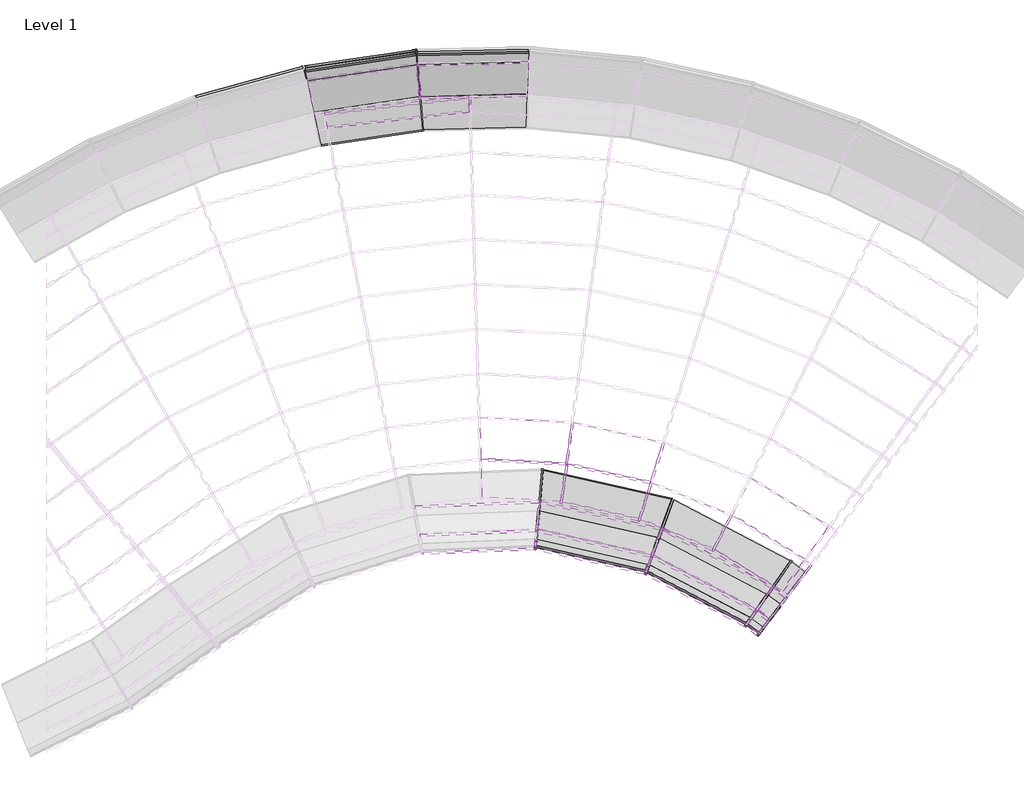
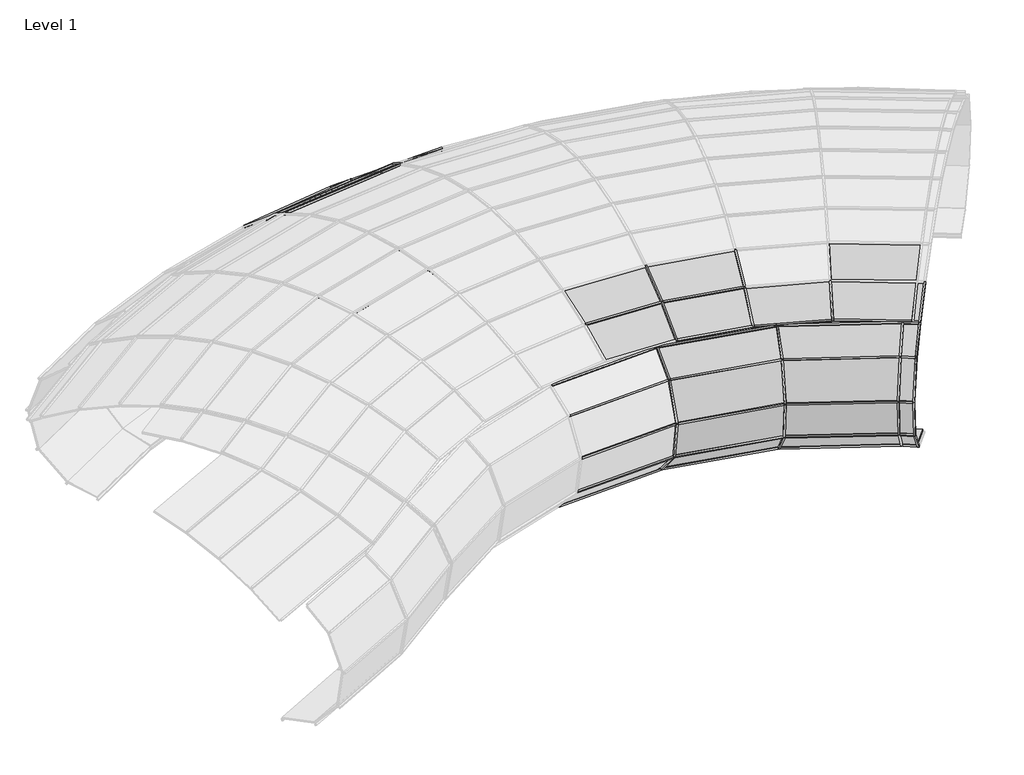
# One storey, part 10 of 23: 65 members, 34 plates.
"""IFC4 building model written with IfcOpenShell, lengths in millimetres."""

from ifc_helpers import new_model, si_unit, origin, place, context, project, spatial, transform, mapped, element, save
from components import member_a1596450, member_54d4a950, member_a2486feb, member_89e98a43, member_bff08ed3, member_4c2c1438, member_ab9de9a3, member_4657b864, member_20147643, member_c3b58052, member_3a0dd7d7, member_dc232313, member_f0155a20, member_775132e8, member_15538b30, member_b171f0c8, member_07455e61, member_515abc7c, member_6834bcaf, member_a3fa0b53, member_b335b832, member_d6b8231b, member_649bdf5e, member_35237229, member_65ac7dc4, member_b70cd57a, member_0f5467c3, member_8c9da58c, member_391bee44, member_01ebdf2a, member_ff9adfd2, member_0cd36c09, member_e4cc2466, system_panel_glazed_7c909565, system_panel_glazed_945bf34b, system_panel_glazed_45ca7c27, system_panel_glazed_a1cfa193, system_panel_glazed_82840720, system_panel_glazed_bab3f386, system_panel_glazed_217bc4a3, system_panel_glazed_956d20dc, system_panel_glazed_a2d5a43f, system_panel_glazed_a2ddec3e, system_panel_glazed_d9dfaa20, system_panel_glazed_a0058e6f, system_panel_glazed_11031df9, system_panel_glazed_45b4e97c, system_panel_glazed_9a1bcf3f, system_panel_glazed_a2a57e74, system_panel_glazed_56180ac8, system_panel_glazed_7dd4ad5a, system_panel_glazed_672f498d

model = new_model("IFC4")

# Units and contexts
model_context = context("Model", 3, world=origin())
ifc_project = project(units=[si_unit("LENGTHUNIT", "METRE", prefix="MILLI")], contexts=[model_context])

# Site, building, storey
site = spatial("IfcSite", under=ifc_project)
building = spatial("IfcBuilding", under=site)
storey = spatial("IfcBuildingStorey", under=building, Name="Level 1", Elevation=0.0)

# Members
placement = place(None, origin())
member_shape = member_a1596450(model_context)
element("IfcMember", 1, ObjectType="Rectangular Mullion : 1\" Square", at=placement, inside=storey, context=model_context, shape_type="MappedRepresentation", body=[
    mapped(member_shape, transform((1937.8242171, -7608.1808848, 629.7792003), x_axis=(-0.09290409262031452, -0.41281592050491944, 0.9060639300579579), y_axis=(-0.1989338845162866, -0.8839554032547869, -0.4231408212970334), z_axis=(0.9755993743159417, -0.21955833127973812, 0.0))),
])
element("IfcMember", 2, ObjectType="Rectangular Mullion : 1\" Square", at=placement, inside=storey, context=model_context, shape_type="MappedRepresentation", body=[
    mapped(member_shape, transform((430.780423, -7272.382286, 629.7792003), x_axis=(0.016834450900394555, -0.42280581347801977, 0.9060639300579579), y_axis=(0.036047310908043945, -0.9053465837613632, -0.4231408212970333), z_axis=(0.9992082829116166, 0.03978451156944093, 0.0))),
])
element("IfcMember", 3, ObjectType="Rectangular Mullion : 1\" Square", at=placement, inside=storey, context=model_context, shape_type="MappedRepresentation", body=[
    mapped(member_shape, transform((3307.0644921, -8321.7092764, 629.7792003), x_axis=(-0.1963422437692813, -0.3748304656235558, 0.9060639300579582), y_axis=(-0.4204241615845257, -0.802617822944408, -0.4231408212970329), z_axis=(0.8858291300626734, -0.46401158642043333, 0.0))),
])
member_2_shape = member_54d4a950(model_context)
element("IfcMember", 4, ObjectType="Rectangular Mullion : 1\" Square", at=placement, inside=storey, context=model_context, shape_type="MappedRepresentation", body=[
    mapped(member_2_shape, transform((3720.0943333, -8124.4965776, 170.8694653), x_axis=(-0.4977243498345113, -0.6800295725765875, 0.5383588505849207), y_axis=(-0.31796525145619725, -0.43442876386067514, -0.8427156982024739), z_axis=(0.8069501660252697, -0.5906195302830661, 0.0))),
])
member_3_shape = member_a2486feb(model_context)
element("IfcMember", 5, ObjectType="Rectangular Mullion : 1\" Square", at=placement, inside=storey, context=model_context, shape_type="MappedRepresentation", body=[
    mapped(member_3_shape, transform((3537.9538895, -7993.5262462, 170.8694653), x_axis=(-0.39171959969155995, -0.7478188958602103, 0.5360248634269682), y_axis=(-0.2487217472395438, -0.47482643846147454, -0.844202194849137), z_axis=(0.8858291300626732, -0.46401158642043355, 0.0))),
])
element("IfcMember", 6, ObjectType="Rectangular Mullion : 1\" Square", at=placement, inside=storey, context=model_context, shape_type="MappedRepresentation", body=[
    mapped(member_3_shape, transform((2076.1483229, -7231.5106618, 170.8694653), x_axis=(-0.18535162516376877, -0.8236031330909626, 0.5360248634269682), y_axis=(-0.11768872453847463, -0.5229455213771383, -0.8442021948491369), z_axis=(0.9755993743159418, -0.21955833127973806, 0.0))),
])
element("IfcMember", 7, ObjectType="Rectangular Mullion : 1\" Square", at=placement, inside=storey, context=model_context, shape_type="MappedRepresentation", body=[
    mapped(member_3_shape, transform((467.1586371, -6872.7691723, 170.8694653), x_axis=(0.03358617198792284, -0.8435338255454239, 0.5360248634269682), y_axis=(0.021325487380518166, -0.5356004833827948, -0.8442021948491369), z_axis=(0.9992082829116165, 0.03978451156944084, 0.0))),
])
member_4_shape = member_89e98a43(model_context)
element("IfcMember", 8, ObjectType="Rectangular Mullion : 1\" Square", at=placement, inside=storey, context=model_context, shape_type="MappedRepresentation", body=[
    mapped(member_4_shape, transform((3571.6491551, -8319.5415222, 1789.6405438), x_axis=(0.3813174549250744, 0.5209854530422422, 0.7636564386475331), y_axis=(-0.45103040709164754, -0.6162326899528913, 0.6456228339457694), z_axis=(0.8069501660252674, -0.5906195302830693, 0.0))),
])
member_5_shape = member_bff08ed3(model_context)
element("IfcMember", 9, ObjectType="Rectangular Mullion : 1\" Square", at=placement, inside=storey, context=model_context, shape_type="MappedRepresentation", body=[
    mapped(member_5_shape, transform((545.2888209, -6292.2989472, 0.0), x_axis=(0.2106142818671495, 0.9358568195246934, -0.2825130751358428), y_axis=(-0.0620280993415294, -0.27561957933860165, -0.9592634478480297), z_axis=(-0.9755993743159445, 0.21955833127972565, 0.0))),
])
member_6_shape = member_4c2c1438(model_context)
element("IfcMember", 10, ObjectType="Rectangular Mullion : 1\" Square", at=placement, inside=storey, context=model_context, shape_type="MappedRepresentation", body=[
    mapped(member_6_shape, transform((422.5065991, -7363.2698842, 1232.5089476), x_axis=(-0.005343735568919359, 0.1342106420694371, 0.9909384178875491), y_axis=(0.039424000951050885, -0.9901538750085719, 0.13431698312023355), z_axis=(0.9992082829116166, 0.03978451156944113, 0.0))),
])
element("IfcMember", 11, ObjectType="Rectangular Mullion : 1\" Square", at=placement, inside=storey, context=model_context, shape_type="MappedRepresentation", body=[
    mapped(member_6_shape, transform((1906.3639239, -7693.8503754, 1232.5089476), x_axis=(0.029490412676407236, 0.13103956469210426, 0.9909384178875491), y_axis=(-0.2175687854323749, -0.9667589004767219, 0.13431698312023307), z_axis=(0.9755993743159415, -0.21955833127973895, 0.0))),
])
element("IfcMember", 12, ObjectType="Rectangular Mullion : 1\" Square", at=placement, inside=storey, context=model_context, shape_type="MappedRepresentation", body=[
    mapped(member_6_shape, transform((3254.5512436, -8396.3508895, 1232.5089476), x_axis=(0.06232463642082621, 0.11898189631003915, 0.990938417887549), y_axis=(-0.45980690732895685, -0.8778021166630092, 0.1343169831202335), z_axis=(0.8858291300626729, -0.46401158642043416, 0.0))),
])
member_7_shape = member_ab9de9a3(model_context)
element("IfcMember", 13, ObjectType="Rectangular Mullion : 1\" Square", at=placement, inside=storey, context=model_context, shape_type="MappedRepresentation", body=[
    mapped(member_7_shape, transform((3421.8046036, -8516.4251299, 1232.5089476), x_axis=(0.07878404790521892, 0.10764087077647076, 0.9910633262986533), y_axis=(-0.5853413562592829, -0.7997387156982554, 0.13339221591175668), z_axis=(0.8069501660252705, -0.5906195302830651, 0.0))),
])
member_8_shape = member_4657b864(model_context)
element("IfcMember", 14, ObjectType="Rectangular Mullion : 1\" Square", at=placement, inside=storey, context=model_context, shape_type="MappedRepresentation", body=[
    mapped(member_8_shape, transform((444.9373567, -7116.8689799, 1789.6405438), x_axis=(-0.025786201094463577, 0.6476335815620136, 0.7615154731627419), y_axis=(0.03029652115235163, -0.7609125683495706, 0.6481467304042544), z_axis=(0.9992082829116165, 0.039784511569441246, 0.0))),
])
element("IfcMember", 15, ObjectType="Rectangular Mullion : 1\" Square", at=placement, inside=storey, context=model_context, shape_type="MappedRepresentation", body=[
    mapped(member_8_shape, transform((1991.65438, -7461.5960263, 1789.6405438), x_axis=(0.1423060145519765, 0.6323315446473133, 0.7615154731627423), y_axis=(-0.1671970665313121, -0.7429340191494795, 0.648146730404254), z_axis=(0.9755993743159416, -0.21955833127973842, 0.0))),
])
element("IfcMember", 16, ObjectType="Rectangular Mullion : 1\" Square", at=placement, inside=storey, context=model_context, shape_type="MappedRepresentation", body=[
    mapped(member_8_shape, transform((3396.917333, -8193.9936778, 1789.6405438), x_axis=(0.3007475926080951, 0.5741472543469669, 0.7615154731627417), y_axis=(-0.35335200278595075, -0.6745725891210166, 0.6481467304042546), z_axis=(0.8858291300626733, -0.46401158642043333, 0.0))),
])
member_9_shape = member_20147643(model_context)
element("IfcMember", 17, ObjectType="Rectangular Mullion : 1\" Square", at=placement, inside=storey, context=model_context, shape_type="MappedRepresentation", body=[
    mapped(member_9_shape, transform((3477.0763625, -8443.802514, 629.7792003), x_axis=(-0.24849482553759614, -0.33951288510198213, 0.9071831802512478), y_axis=(-0.5358001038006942, -0.7320516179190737, -0.4207358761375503), z_axis=(0.8069501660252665, -0.5906195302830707, 0.0))),
])
member_10_shape = member_c3b58052(model_context)
element("IfcMember", 18, ObjectType="Rectangular Mullion : 1\" Square", at=placement, inside=storey, context=model_context, shape_type="MappedRepresentation", body=[
    mapped(member_10_shape, transform((3813.2347181, -8002.1176536, 2085.6089632), x_axis=(0.47429009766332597, 0.6480118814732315, 0.59592743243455), y_axis=(-0.35196638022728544, -0.48088374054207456, 0.8030382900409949), z_axis=(0.8069501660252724, -0.5906195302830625, 0.0))),
])
member_11_shape = member_3a0dd7d7(model_context)
element("IfcMember", 19, ObjectType="Rectangular Mullion : 1\" Square", at=placement, inside=storey, context=model_context, shape_type="MappedRepresentation", body=[
    mapped(member_11_shape, transform((481.1011487, -6719.6112842, 2085.6089632), x_axis=(-0.031853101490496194, 0.8000068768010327, 0.5991447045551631), y_axis=(0.023836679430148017, -0.5986703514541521, 0.8006407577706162), z_axis=(0.9992082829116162, 0.03978451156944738, 0.0))),
])
element("IfcMember", 20, ObjectType="Rectangular Mullion : 1\" Square", at=placement, inside=storey, context=model_context, shape_type="MappedRepresentation", body=[
    mapped(member_11_shape, transform((2129.1631695, -7087.1459903, 2085.6089632), x_axis=(0.17578734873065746, 0.7811046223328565, 0.5991447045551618), y_axis=(-0.13154721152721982, -0.5845251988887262, 0.8006407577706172), z_axis=(0.9755993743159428, -0.21955833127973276, 0.0))),
])
element("IfcMember", 21, ObjectType="Rectangular Mullion : 1\" Square", at=placement, inside=storey, context=model_context, shape_type="MappedRepresentation", body=[
    mapped(member_11_shape, transform((3626.4458114, -7867.7450391, 2085.6089632), x_axis=(0.37150658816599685, 0.7092309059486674, 0.5991447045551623), y_axis=(-0.2780100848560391, -0.5307398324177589, 0.8006407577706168), z_axis=(0.8858291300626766, -0.4640115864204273, 0.0))),
])
member_12_shape = member_dc232313(model_context)
element("IfcMember", 22, ObjectType="Rectangular Mullion : 1\" Square", at=placement, inside=storey, context=model_context, shape_type="MappedRepresentation", body=[
    mapped(member_12_shape, transform((1981.7156999, -6472.7178899, 2378.3537392), x_axis=(0.1966702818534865, 0.8830510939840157, 0.4260769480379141), y_axis=(-0.09262505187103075, -0.4158872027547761, 0.9046869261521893), z_axis=(0.9760847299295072, -0.21739043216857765, 0.0))),
])
element("IfcMember", 23, ObjectType="Rectangular Mullion : 1\" Square", at=placement, inside=storey, context=model_context, shape_type="MappedRepresentation", body=[
    mapped(member_12_shape, transform((846.6753747, -6222.0725929, 2378.3537392), x_axis=(0.048245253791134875, 0.9033995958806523, 0.426076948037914), y_axis=(-0.0227218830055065, -0.4254706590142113, 0.9046869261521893), z_axis=(0.9985770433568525, -0.05332812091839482, 0.0))),
])
member_13_shape = member_f0155a20(model_context)
element("IfcMember", 24, ObjectType="Rectangular Mullion : 1\" Square", at=placement, inside=storey, context=model_context, shape_type="MappedRepresentation", body=[
    mapped(member_13_shape, transform((-452.7880414, -1470.8365713, 2208.6526723), x_axis=(-0.09781407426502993, 0.8663052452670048, -0.4898444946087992), y_axis=(-0.05495887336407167, 0.48675163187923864, 0.8718098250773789), z_axis=(0.9936860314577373, 0.11219657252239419, 0.0))),
])
member_14_shape = member_775132e8(model_context)
element("IfcMember", 25, ObjectType="Rectangular Mullion : 1\" Square", at=placement, inside=storey, context=model_context, shape_type="MappedRepresentation", body=[
    mapped(member_14_shape, transform((-458.8914905, -1264.2798166, 2085.6089632), x_axis=(-0.09631462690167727, 0.8530251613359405, -0.5129050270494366), y_axis=(-0.057546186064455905, 0.5096665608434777, 0.8584453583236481), z_axis=(0.9936860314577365, 0.11219657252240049, 0.0))),
])
member_15_shape = member_15538b30(model_context)
element("IfcMember", 26, ObjectType="Rectangular Mullion : 1\" Square", at=placement, inside=storey, context=model_context, shape_type="MappedRepresentation", body=[
    mapped(member_15_shape, transform((799.1265111, -6755.2634581, 2085.6089632), x_axis=(-0.19053148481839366, -0.8554878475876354, -0.4814958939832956), y_axis=(-0.10467260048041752, -0.4699807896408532, 0.8764483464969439), z_axis=(-0.9760847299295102, 0.2173904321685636, 0.0))),
])
element("IfcMember", 27, ObjectType="Rectangular Mullion : 1\" Square", at=placement, inside=storey, context=model_context, shape_type="MappedRepresentation", body=[
    mapped(member_15_shape, transform((1846.8271886, -6990.7511733, 2085.6089632), x_axis=(-0.329098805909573, -0.8123150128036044, -0.48149589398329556), y_axis=(-0.1807975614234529, -0.44626285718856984, 0.8764483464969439), z_axis=(-0.9268258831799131, 0.37549138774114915, 0.0))),
])
element("IfcMember", 28, ObjectType="Rectangular Mullion : 1\" Square", at=placement, inside=storey, context=model_context, shape_type="MappedRepresentation", body=[
    mapped(member_15_shape, transform((2841.3005164, -7395.9103693, 2085.6089632), x_axis=(-0.45864146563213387, -0.7468665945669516, -0.4814958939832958), y_axis=(-0.2519646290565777, -0.4103073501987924, 0.8764483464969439), z_axis=(-0.8521512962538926, 0.5232954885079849, 0.0))),
])
member_16_shape = member_b171f0c8(model_context)
element("IfcMember", 29, ObjectType="Rectangular Mullion : 1\" Square", at=placement, inside=storey, context=model_context, shape_type="MappedRepresentation", body=[
    mapped(member_16_shape, transform((-2688.7292646, -873.3181719, 1116.1918244), x_axis=(-0.007013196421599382, 0.025585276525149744, -0.9996480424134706), y_axis=(-0.26426592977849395, 0.9640849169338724, 0.02652906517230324), z_axis=(0.9644243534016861, 0.26435897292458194, 0.0))),
])
element("IfcMember", 30, ObjectType="Rectangular Mullion : 1\" Square", at=placement, inside=storey, context=model_context, shape_type="MappedRepresentation", body=[
    mapped(member_16_shape, transform((-1178.613692, -649.6002551, 1116.1918244), x_axis=(-0.0038612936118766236, 0.02624655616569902, -0.9996480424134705), y_axis=(-0.1454983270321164, 0.9890027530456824, 0.026529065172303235), z_axis=(0.9893509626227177, 0.14554955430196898, 0.0))),
])
member_17_shape = member_07455e61(model_context)
element("IfcMember", 31, ObjectType="Rectangular Mullion : 1\" Square", at=placement, inside=storey, context=model_context, shape_type="MappedRepresentation", body=[
    mapped(member_17_shape, transform((-1165.3754738, -804.359432, 526.7119632), x_axis=(0.07519318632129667, -0.5111142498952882, -0.8562173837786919), y_axis=(-0.12462205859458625, 0.8470994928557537, -0.5166157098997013), z_axis=(0.9893509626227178, 0.14554955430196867, 0.0))),
])
member_18_shape = member_515abc7c(model_context)
element("IfcMember", 32, ObjectType="Rectangular Mullion : 1\" Square", at=placement, inside=storey, context=model_context, shape_type="MappedRepresentation", body=[
    mapped(member_18_shape, transform((-1162.7358687, -835.2172935, 1696.6281859), x_axis=(-0.08168989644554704, 0.5552746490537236, -0.8276453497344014), y_axis=(-0.12046341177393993, 0.8188317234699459, 0.5612514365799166), z_axis=(0.9893509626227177, 0.14554955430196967, 0.0))),
])
member_19_shape = member_6834bcaf(model_context)
element("IfcMember", 33, ObjectType="Rectangular Mullion : 1\" Square", at=placement, inside=storey, context=model_context, shape_type="MappedRepresentation", body=[
    mapped(member_19_shape, transform((-1127.1815513, -1250.8590977, 113.4427618), x_axis=(0.130451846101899, -0.8867265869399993, -0.4435067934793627), y_axis=(-0.06455221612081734, 0.4387838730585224, -0.896271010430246), z_axis=(0.9893509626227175, 0.1455495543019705, 0.0))),
])
member_20_shape = member_a3fa0b53(model_context)
element("IfcMember", 34, ObjectType="Rectangular Mullion : 1\" Square", at=placement, inside=storey, context=model_context, shape_type="MappedRepresentation", body=[
    mapped(member_20_shape, transform((-1085.9662712, -1732.6794402, 0.0), x_axis=(0.1416890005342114, -0.963109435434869, -0.22878907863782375), y_axis=(-0.033300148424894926, 0.22635269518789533, -0.9734760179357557), z_axis=(0.9893509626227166, 0.14554955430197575, 0.0))),
])
member_21_shape = member_b335b832(model_context)
element("IfcMember", 35, ObjectType="Rectangular Mullion : 1\" Square", at=placement, inside=storey, context=model_context, shape_type="MappedRepresentation", body=[
    mapped(member_21_shape, transform((-1097.470967, -1300.7163704, 2085.6089632), x_axis=(0.018923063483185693, -0.7691485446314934, 0.6387898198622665), y_axis=(-0.01571114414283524, 0.6385965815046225, 0.7693812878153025), z_axis=(-0.999697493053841, -0.024595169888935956, 0.0))),
])
member_22_shape = member_d6b8231b(model_context)
element("IfcMember", 36, ObjectType="Rectangular Mullion : 1\" Square", at=placement, inside=storey, context=model_context, shape_type="MappedRepresentation", body=[
    mapped(member_22_shape, transform((3885.9085112, -7520.8318934, 0.0), x_axis=(0.8178700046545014, -0.5754030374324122, 0.0), y_axis=(-0.1612841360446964, -0.22924706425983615, -0.9599131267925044), z_axis=(0.5523369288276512, 0.7850841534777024, -0.28029767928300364))),
])
element("IfcMember", 37, ObjectType="Rectangular Mullion : 1\" Square", at=placement, inside=storey, context=model_context, shape_type="MappedRepresentation", body=[
    mapped(member_22_shape, transform((532.8987089, -6289.5105564, 0.0), x_axis=(0.9958820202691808, -0.09065871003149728, 0.0), y_axis=(-0.02541142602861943, -0.27914341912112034, -0.9599131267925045), z_axis=(0.08702448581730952, 0.9559602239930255, -0.2802976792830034))),
])
member_23_shape = member_649bdf5e(model_context)
element("IfcMember", 38, ObjectType="Rectangular Mullion : 1\" Square", at=placement, inside=storey, context=model_context, shape_type="MappedRepresentation", body=[
    mapped(member_23_shape, transform((3740.5908675, -8139.4983136, 170.8694653), x_axis=(0.8020965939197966, -0.5971221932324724, 0.009281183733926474), y_axis=(-0.4446549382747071, -0.607522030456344, -0.65817852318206), z_axis=(0.3986515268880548, 0.523795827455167, -0.7528046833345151))),
])
member_24_shape = member_35237229(model_context)
element("IfcMember", 39, ObjectType="Rectangular Mullion : 1\" Square", at=placement, inside=storey, context=model_context, shape_type="MappedRepresentation", body=[
    mapped(member_24_shape, transform((3497.5728968, -8458.8042501, 629.7792003), x_axis=(0.8066991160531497, -0.5909558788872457, 0.0027722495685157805), y_axis=(-0.5839654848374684, -0.797858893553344, -0.14968466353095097), z_axis=(0.09066889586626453, 0.11913158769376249, -0.9887299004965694))),
])
member_25_shape = member_65ac7dc4(model_context)
element("IfcMember", 40, ObjectType="Rectangular Mullion : 1\" Square", at=placement, inside=storey, context=model_context, shape_type="MappedRepresentation", body=[
    mapped(member_25_shape, transform((3442.3011378, -8531.4268659, 1232.5089476), x_axis=(0.8051049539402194, -0.5930916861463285, -0.006947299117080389), y_axis=(-0.5398003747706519, -0.7375170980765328, 0.40581286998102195), z_axis=(-0.24580799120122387, -0.32297179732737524, -0.9139297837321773))),
])
member_26_shape = member_b70cd57a(model_context)
element("IfcMember", 41, ObjectType="Rectangular Mullion : 1\" Square", at=placement, inside=storey, context=model_context, shape_type="MappedRepresentation", body=[
    mapped(member_26_shape, transform((3592.1456893, -8334.5432583, 1789.6405438), x_axis=(0.7997252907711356, -0.6002991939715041, -0.00896309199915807), y_axis=(-0.351966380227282, -0.48088374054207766, 0.8030382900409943), z_axis=(-0.48637344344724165, -0.6390553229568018, -0.5958600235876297))),
])
member_27_shape = member_0f5467c3(model_context)
element("IfcMember", 42, ObjectType="Rectangular Mullion : 1\" Square", at=placement, inside=storey, context=model_context, shape_type="MappedRepresentation", body=[
    mapped(member_27_shape, transform((3833.7312523, -8017.1193897, 2085.6089632), x_axis=(0.7969242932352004, -0.6040686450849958, -0.0035697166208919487), y_axis=(-0.28759687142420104, -0.3845987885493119, 0.8771384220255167), z_axis=(-0.5312247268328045, -0.6979862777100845, -0.4802243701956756))),
])
member_28_shape = member_8c9da58c(model_context)
element("IfcMember", 43, ObjectType="Rectangular Mullion : 1\" Square", at=placement, inside=storey, context=model_context, shape_type="MappedRepresentation", body=[
    mapped(member_28_shape, transform((479.8485823, -6872.263909, 170.8694653), x_axis=(0.9958820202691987, -0.09065871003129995, 0.0), y_axis=(-0.06824830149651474, -0.7497046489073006, -0.6582439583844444), z_axis=(0.059675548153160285, 0.655533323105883, -0.7528046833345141))),
])
element("IfcMember", 44, ObjectType="Rectangular Mullion : 1\" Square", at=placement, inside=storey, context=model_context, shape_type="MappedRepresentation", body=[
    mapped(member_28_shape, transform((2088.538435, -7234.2990526, 170.8694653), x_axis=(0.9387056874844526, -0.34471964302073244, 0.0), y_axis=(-0.259506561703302, -0.7066620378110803, -0.6582439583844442), z_axis=(0.22690962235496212, 0.6178973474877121, -0.7528046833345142))),
])
element("IfcMember", 45, ObjectType="Rectangular Mullion : 1\" Square", at=placement, inside=storey, context=model_context, shape_type="MappedRepresentation", body=[
    mapped(member_28_shape, transform((443.4703682, -7271.8770227, 629.7792003), x_axis=(0.9958820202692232, -0.0906587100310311, 0.0), y_axis=(-0.08963697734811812, -0.9846583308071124, -0.14971033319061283), z_axis=(0.013572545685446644, 0.1490938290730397, -0.9887299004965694))),
])
element("IfcMember", 46, ObjectType="Rectangular Mullion : 1\" Square", at=placement, inside=storey, context=model_context, shape_type="MappedRepresentation", body=[
    mapped(member_28_shape, transform((1950.2143292, -7610.9692756, 629.7792003), x_axis=(0.9387056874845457, -0.34471964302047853, 0.0), y_axis=(-0.34083461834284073, -0.9281263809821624, -0.14971033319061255), z_axis=(0.05160809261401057, 0.14053394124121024, -0.9887299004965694))),
])
element("IfcMember", 47, ObjectType="Rectangular Mullion : 1\" Square", at=placement, inside=storey, context=model_context, shape_type="MappedRepresentation", body=[
    mapped(member_28_shape, transform((3318.3145221, -8327.6022236, 629.7792003), x_axis=(0.8178700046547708, -0.5754030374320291, 0.0), y_axis=(-0.5689181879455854, -0.8086525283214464, -0.14971033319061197), z_axis=(0.08614378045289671, 0.12244359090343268, -0.9887299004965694))),
])
member_29_shape = member_391bee44(model_context)
element("IfcMember", 48, ObjectType="Rectangular Mullion : 1\" Square", at=placement, inside=storey, context=model_context, shape_type="MappedRepresentation", body=[
    mapped(member_29_shape, transform((435.1965443, -7362.7646209, 1232.5089476), x_axis=(0.9958820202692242, -0.09065871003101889, 0.0), y_axis=(-0.08285569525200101, -0.9101662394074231, 0.40587233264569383), z_axis=(-0.03679586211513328, -0.40420095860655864, -0.9139297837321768))),
])
element("IfcMember", 49, ObjectType="Rectangular Mullion : 1\" Square", at=placement, inside=storey, context=model_context, shape_type="MappedRepresentation", body=[
    mapped(member_29_shape, transform((1918.7540359, -7696.6387662, 1232.5089476), x_axis=(0.9387056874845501, -0.34471964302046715, 0.0), y_axis=(-0.3150495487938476, -0.8579110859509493, 0.4058723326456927), z_axis=(-0.13991216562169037, -0.38099466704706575, -0.9139297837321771))),
])
element("IfcMember", 50, ObjectType="Rectangular Mullion : 1\" Square", at=placement, inside=storey, context=model_context, shape_type="MappedRepresentation", body=[
    mapped(member_29_shape, transform((3265.8012735, -8402.2438366, 1232.5089476), x_axis=(0.8178700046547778, -0.5754030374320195, 0.0), y_axis=(-0.5258779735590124, -0.7474757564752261, 0.40587233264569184), z_axis=(-0.23354017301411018, -0.3319508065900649, -0.9139297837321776))),
])
member_30_shape = member_01ebdf2a(model_context)
element("IfcMember", 51, ObjectType="Rectangular Mullion : 1\" Square", at=placement, inside=storey, context=model_context, shape_type="MappedRepresentation", body=[
    mapped(member_30_shape, transform((457.6273019, -7116.3637166, 1789.6405438), x_axis=(0.9958820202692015, -0.09065871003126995, 0.0), y_axis=(-0.054019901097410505, -0.5934062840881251, 0.8030883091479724), z_axis=(-0.0728069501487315, -0.7997812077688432, -0.5958600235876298))),
])
element("IfcMember", 52, ObjectType="Rectangular Mullion : 1\" Square", at=placement, inside=storey, context=model_context, shape_type="MappedRepresentation", body=[
    mapped(member_30_shape, transform((2004.0444921, -7464.3844172, 1789.6405438), x_axis=(0.9387056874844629, -0.344719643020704, 0.0), y_axis=(-0.20540465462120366, -0.5593371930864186, 0.8030883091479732), z_axis=(-0.27684031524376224, -0.7538635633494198, -0.5958600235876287))),
])
element("IfcMember", 53, ObjectType="Rectangular Mullion : 1\" Square", at=placement, inside=storey, context=model_context, shape_type="MappedRepresentation", body=[
    mapped(member_30_shape, transform((3408.167363, -8199.8866249, 1789.6405438), x_axis=(0.8178700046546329, -0.5754030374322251, 0.0), y_axis=(-0.34285966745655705, -0.4873360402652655, 0.8030883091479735), z_axis=(-0.46209945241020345, -0.6568218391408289, -0.5958600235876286))),
])
member_31_shape = member_ff9adfd2(model_context)
element("IfcMember", 54, ObjectType="Rectangular Mullion : 1\" Square", at=placement, inside=storey, context=model_context, shape_type="MappedRepresentation", body=[
    mapped(member_31_shape, transform((-440.1682288, -1469.4116748, 2208.6526723), x_axis=(0.9995637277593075, 0.029535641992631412, 0.0), y_axis=(-0.015110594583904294, 0.5113822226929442, 0.8592205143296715), z_axis=(0.02537762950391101, -0.8588456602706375, 0.5116054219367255))),
])
member_32_shape = member_0cd36c09(model_context)
element("IfcMember", 55, ObjectType="Rectangular Mullion : 1\" Square", at=placement, inside=storey, context=model_context, shape_type="MappedRepresentation", body=[
    mapped(member_32_shape, transform((859.3573032, -6222.74986, 2378.3537392), x_axis=(0.9907327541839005, -0.13582565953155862, 0.0), y_axis=(-0.05057792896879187, -0.3689230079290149, 0.9280828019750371), z_axis=(-0.12605745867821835, -0.9194820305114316, -0.3723738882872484))),
])
element("IfcMember", 56, ObjectType="Rectangular Mullion : 1\" Square", at=placement, inside=storey, context=model_context, shape_type="MappedRepresentation", body=[
    mapped(member_32_shape, transform((1994.1119759, -6475.4787484, 2378.3537392), x_axis=(0.9547335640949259, -0.29746230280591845, 0.0), y_axis=(-0.11076719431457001, -0.35551784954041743, 0.928082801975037), z_axis=(-0.27606964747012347, -0.8860718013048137, -0.37237388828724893))),
])
member_33_shape = member_e4cc2466(model_context)
element("IfcMember", 57, ObjectType="Rectangular Mullion : 1\" Square", at=placement, inside=storey, context=model_context, shape_type="MappedRepresentation", body=[
    mapped(member_33_shape, transform((2830.4781949, -7389.2645166, 2085.6089632), x_axis=(0.8925533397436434, -0.45094183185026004, 0.0), y_axis=(-0.21655325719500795, -0.4286258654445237, 0.8771456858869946), z_axis=(-0.39554168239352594, -0.7828993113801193, -0.48022437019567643))),
])
element("IfcMember", 58, ObjectType="Rectangular Mullion : 1\" Square", at=placement, inside=storey, context=model_context, shape_type="MappedRepresentation", body=[
    mapped(member_33_shape, transform((1835.0564999, -6985.9824326, 2085.6089632), x_axis=(0.9547335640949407, -0.2974623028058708, 0.0), y_axis=(-0.14284864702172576, -0.4584863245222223, 0.8771456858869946), z_axis=(-0.2609177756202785, -0.8374404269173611, -0.48022437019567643))),
])
element("IfcMember", 59, ObjectType="Rectangular Mullion : 1\" Square", at=placement, inside=storey, context=model_context, shape_type="MappedRepresentation", body=[
    mapped(member_33_shape, transform((786.7302351, -6752.5025996, 2085.6089632), x_axis=(0.9907327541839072, -0.13582565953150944, 0.0), y_axis=(-0.0652267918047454, -0.47577401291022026, 0.8771456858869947), z_axis=(-0.11913889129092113, -0.8690169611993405, -0.4802243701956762))),
])
element("IfcMember", 60, ObjectType="Rectangular Mullion : 1\" Square", at=placement, inside=storey, context=model_context, shape_type="MappedRepresentation", body=[
    mapped(member_28_shape, transform((-2676.4810754, -869.9608129, 1116.1918244), x_axis=(0.9786921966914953, 0.2053328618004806, 0.0), y_axis=(-0.1985557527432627, 0.9463899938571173, -0.2547971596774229), z_axis=(-0.05231822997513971, 0.24936799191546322, 0.9669945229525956))),
])
element("IfcMember", 61, ObjectType="Rectangular Mullion : 1\" Square", at=placement, inside=storey, context=model_context, shape_type="MappedRepresentation", body=[
    mapped(member_28_shape, transform((-1150.1711115, -833.3688141, 1696.6281859), x_axis=(0.9963613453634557, 0.08522951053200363, 0.0), y_axis=(-0.08115207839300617, 0.9486948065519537, 0.30560187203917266), z_axis=(0.026046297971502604, -0.30448989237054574, 0.9521593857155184))),
])
element("IfcMember", 62, ObjectType="Rectangular Mullion : 1\" Square", at=placement, inside=storey, context=model_context, shape_type="MappedRepresentation", body=[
    mapped(member_28_shape, transform((-1166.0489348, -647.7517757, 1116.1918244), x_axis=(0.9963613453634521, 0.08522951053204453, 0.0), y_axis=(-0.08241646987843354, 0.9634759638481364, -0.25479715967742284), z_axis=(-0.021716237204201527, 0.25387004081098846, 0.9669945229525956))),
])
element("IfcMember", 63, ObjectType="Rectangular Mullion : 1\" Square", at=placement, inside=storey, context=model_context, shape_type="MappedRepresentation", body=[
    mapped(member_29_shape, transform((-1152.8107166, -802.5109526, 526.7119632), x_axis=(0.99636134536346, 0.0852295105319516, 0.0), y_axis=(-0.05778007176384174, 0.6754682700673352, -0.7351218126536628), z_axis=(-0.06265407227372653, 0.7324469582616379, 0.6779350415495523))),
])
element("IfcMember", 64, ObjectType="Rectangular Mullion : 1\" Square", at=placement, inside=storey, context=model_context, shape_type="MappedRepresentation", body=[
    mapped(member_30_shape, transform((-1114.6167941, -1249.0106184, 113.4427618), x_axis=(0.9963613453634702, 0.08522951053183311, 0.0), y_axis=(-0.019465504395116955, 0.227558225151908, -0.9735698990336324), z_axis=(-0.08297688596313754, 0.97002741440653, 0.2283892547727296))),
])
element("IfcMember", 65, ObjectType="Rectangular Mullion : 1\" Square", at=placement, inside=storey, context=model_context, shape_type="MappedRepresentation", body=[
    mapped(member_22_shape, transform((-1110.1671252, -1301.028729, 2085.6089632), x_axis=(0.9963613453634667, 0.08522951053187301, 0.0), y_axis=(-0.0543842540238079, 0.6357700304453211, 0.7699602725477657), z_axis=(0.0656233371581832, -0.7671586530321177, 0.6380918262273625))),
])

# Plates
system_panel_glazed_shape = system_panel_glazed_7c909565(model_context)
element("IfcPlate", 66, ObjectType="System Panel : Glazed", at=placement, inside=storey, context=model_context, shape_type="MappedRepresentation", body=[
    mapped(system_panel_glazed_shape, transform((1406.2275667, -6511.0276299, 7.1758321), x_axis=(0.9755993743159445, -0.21955833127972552, 0.0), y_axis=(0.06202809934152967, 0.27561957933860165, 0.9592634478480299), z_axis=(-0.21061428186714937, -0.9358568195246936, 0.28251307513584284))),
])
element("IfcPlate", 67, ObjectType="System Panel : Glazed", at=placement, inside=storey, context=model_context, shape_type="MappedRepresentation", body=[
    mapped(system_panel_glazed_shape, transform((3076.776293, -7124.5010201, 7.1758321), x_axis=(0.8858291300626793, -0.46401158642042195, 0.0), y_axis=(0.13108934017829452, 0.2502583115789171, 0.9592634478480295), z_axis=(-0.44510935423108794, -0.8497435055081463, 0.28251307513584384))),
])
system_panel_glazed_2_shape = system_panel_glazed_945bf34b(model_context)
element("IfcPlate", 68, ObjectType="System Panel : Glazed", at=placement, inside=storey, context=model_context, shape_type="MappedRepresentation", body=[
    mapped(system_panel_glazed_2_shape, transform((3970.9203707, -7613.2677401, 7.1207118), x_axis=(0.8069501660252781, -0.5906195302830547, 0.0), y_axis=(0.16557604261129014, 0.22622281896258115, 0.9598998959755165), z_axis=(-0.5669356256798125, -0.7745913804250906, 0.28034298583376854))),
])
system_panel_glazed_3_shape = system_panel_glazed_45ca7c27(model_context)
element("IfcPlate", 69, ObjectType="System Panel : Glazed", at=placement, inside=storey, context=model_context, shape_type="MappedRepresentation", body=[
    mapped(system_panel_glazed_3_shape, transform((1282.3669717, -7061.3976308, 180.4653952), x_axis=(0.9755993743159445, -0.21955833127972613, 0.0), y_axis=(0.1658949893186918, 0.7371482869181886, 0.6550505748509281), z_axis=(-0.1438218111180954, -0.639066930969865, 0.7555850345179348))),
])
element("IfcPlate", 70, ObjectType="System Panel : Glazed", at=placement, inside=storey, context=model_context, shape_type="MappedRepresentation", body=[
    mapped(system_panel_glazed_3_shape, transform((2815.0109988, -7624.2284615, 180.4653952), x_axis=(0.8858291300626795, -0.4640115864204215, 0.0), y_axis=(0.35060021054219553, 0.6693192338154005, 0.6550505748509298), z_axis=(-0.30395105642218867, -0.5802628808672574, 0.7555850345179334))),
])
system_panel_glazed_4_shape = system_panel_glazed_a1cfa193(model_context)
element("IfcPlate", 71, ObjectType="System Panel : Glazed", at=placement, inside=storey, context=model_context, shape_type="MappedRepresentation", body=[
    mapped(system_panel_glazed_4_shape, transform((3634.8359603, -8072.4532238, 180.4308113), x_axis=(0.8069501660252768, -0.5906195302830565, 0.0), y_axis=(0.4446549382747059, 0.6075220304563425, 0.6581785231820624), z_axis=(-0.38873309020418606, -0.5311172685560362, 0.7528618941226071))),
])
system_panel_glazed_5_shape = system_panel_glazed_82840720(model_context)
element("IfcPlate", 72, ObjectType="System Panel : Glazed", at=placement, inside=storey, context=model_context, shape_type="MappedRepresentation", body=[
    mapped(system_panel_glazed_5_shape, transform((1196.428373, -7443.262635, 642.3384564), x_axis=(0.9755993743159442, -0.21955833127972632, 0.0), y_axis=(0.21712514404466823, 0.9647875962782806, 0.1484640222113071), z_axis=(-0.03259651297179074, -0.14484140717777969, 0.988917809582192))),
])
element("IfcPlate", 73, ObjectType="System Panel : Glazed", at=placement, inside=storey, context=model_context, shape_type="MappedRepresentation", body=[
    mapped(system_panel_glazed_5_shape, transform((2633.389535, -7970.9559743, 642.3384564), x_axis=(0.8858291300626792, -0.4640115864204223, 0.0), y_axis=(0.45886932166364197, 0.8760122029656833, 0.14846402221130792), z_axis=(-0.06888902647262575, -0.1315137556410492, 0.988917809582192))),
])
system_panel_glazed_6_shape = system_panel_glazed_bab3f386(model_context)
element("IfcPlate", 74, ObjectType="System Panel : Glazed", at=placement, inside=storey, context=model_context, shape_type="MappedRepresentation", body=[
    mapped(system_panel_glazed_6_shape, transform((3401.6967908, -8390.9867965, 642.3361193), x_axis=(0.8069501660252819, -0.5906195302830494, 0.0), y_axis=(0.5839654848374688, 0.7978588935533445, 0.14968466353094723), z_axis=(-0.08840668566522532, -0.12078806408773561, 0.9887337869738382))),
])
system_panel_glazed_7_shape = system_panel_glazed_217bc4a3(model_context)
element("IfcPlate", 75, ObjectType="System Panel : Glazed", at=placement, inside=storey, context=model_context, shape_type="MappedRepresentation", body=[
    mapped(system_panel_glazed_7_shape, transform((1178.0989563, -7524.7087241, 1244.1320982), x_axis=(0.9755993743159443, -0.21955833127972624, 0.0), y_axis=(0.20094169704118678, 0.892877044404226, -0.4029801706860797), z_axis=(0.08847765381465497, 0.3931472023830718, 0.9152087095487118))),
])
element("IfcPlate", 76, ObjectType="System Panel : Glazed", at=placement, inside=storey, context=model_context, shape_type="MappedRepresentation", body=[
    mapped(system_panel_glazed_7_shape, transform((2594.6523956, -8044.9077624, 1244.1320982), x_axis=(0.8858291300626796, -0.4640115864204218, 0.0), y_axis=(0.4246674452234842, 0.8107185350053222, -0.4029801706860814), z_axis=(0.18698746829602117, 0.3569715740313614, 0.9152087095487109))),
])
system_panel_glazed_8_shape = system_panel_glazed_956d20dc(model_context)
element("IfcPlate", 77, ObjectType="System Panel : Glazed", at=placement, inside=storey, context=model_context, shape_type="MappedRepresentation", body=[
    mapped(system_panel_glazed_8_shape, transform((3351.9708729, -8458.9259302, 1244.1161912), x_axis=(0.806950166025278, -0.5906195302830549, 0.0), y_axis=(0.5398003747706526, 0.7375170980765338, -0.4058128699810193), z_axis=(0.2396810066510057, 0.3274707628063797, 0.9139561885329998))),
])
system_panel_glazed_9_shape = system_panel_glazed_a2d5a43f(model_context)
element("IfcPlate", 78, ObjectType="System Panel : Glazed", at=placement, inside=storey, context=model_context, shape_type="MappedRepresentation", body=[
    mapped(system_panel_glazed_9_shape, transform((1233.0683963, -7280.4540382, 1797.2496815), x_axis=(0.9755993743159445, -0.21955833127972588, 0.0), y_axis=(0.13154721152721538, 0.5845251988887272, -0.800640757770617), z_axis=(0.17578734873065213, 0.7811046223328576, 0.5991447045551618))),
])
element("IfcPlate", 79, ObjectType="System Panel : Glazed", at=placement, inside=storey, context=model_context, shape_type="MappedRepresentation", body=[
    mapped(system_panel_glazed_9_shape, transform((2710.8240612, -7823.1282885, 1797.2496815), x_axis=(0.8858291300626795, -0.46401158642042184, 0.0), y_axis=(0.27801008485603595, 0.5307398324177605, -0.8006407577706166), z_axis=(0.3715065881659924, 0.7092309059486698, 0.5991447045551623))),
])
system_panel_glazed_10_shape = system_panel_glazed_a2ddec3e(model_context)
element("IfcPlate", 80, ObjectType="System Panel : Glazed", at=placement, inside=storey, context=model_context, shape_type="MappedRepresentation", body=[
    mapped(system_panel_glazed_10_shape, transform((3501.0552971, -8255.2343324, 1797.2088221), x_axis=(0.806950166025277, -0.590619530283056, 0.0), y_axis=(0.3519663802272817, 0.4808837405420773, -0.8030382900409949), z_axis=(0.4742900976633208, 0.6480118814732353, 0.59592743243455))),
])
system_panel_glazed_11_shape = system_panel_glazed_d9dfaa20(model_context)
element("IfcPlate", 81, ObjectType="System Panel : Glazed", at=placement, inside=storey, context=model_context, shape_type="MappedRepresentation", body=[
    mapped(system_panel_glazed_11_shape, transform((251.6757799, -6701.6349805, 2097.8389589), x_axis=(0.9985770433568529, -0.05332812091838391, 0.0), y_axis=(0.025677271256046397, 0.4808107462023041, -0.876448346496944), z_axis=(0.046739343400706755, 0.875201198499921, 0.4814958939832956))),
])
element("IfcPlate", 82, ObjectType="System Panel : Glazed", at=placement, inside=storey, context=model_context, shape_type="MappedRepresentation", body=[
    mapped(system_panel_glazed_11_shape, transform((1315.7328672, -6847.5131248, 2097.8389589), x_axis=(0.9760847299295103, -0.21739043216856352, 0.0), y_axis=(0.10467260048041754, 0.4699807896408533, -0.876448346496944), z_axis=(0.19053148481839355, 0.8554878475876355, 0.4814958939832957))),
])
element("IfcPlate", 83, ObjectType="System Panel : Glazed", at=placement, inside=storey, context=model_context, shape_type="MappedRepresentation", body=[
    mapped(system_panel_glazed_11_shape, transform((2341.1264571, -7166.9906733, 2097.8389589), x_axis=(0.9268258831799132, -0.3754913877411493, 0.0), y_axis=(0.18079756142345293, 0.44626285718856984, -0.876448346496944), z_axis=(0.32909880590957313, 0.8123150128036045, 0.4814958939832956))),
])
element("IfcPlate", 84, ObjectType="System Panel : Glazed", at=placement, inside=storey, context=model_context, shape_type="MappedRepresentation", body=[
    mapped(system_panel_glazed_11_shape, transform((3299.7378515, -7651.3068021, 2097.8389589), x_axis=(0.8521512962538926, -0.5232954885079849, 0.0), y_axis=(0.2519646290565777, 0.41030735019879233, -0.8764483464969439), z_axis=(0.45864146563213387, 0.7468665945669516, 0.4814958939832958))),
])
system_panel_glazed_12_shape = system_panel_glazed_a0058e6f(model_context)
element("IfcPlate", 85, ObjectType="System Panel : Glazed", at=placement, inside=storey, context=model_context, shape_type="MappedRepresentation", body=[
    mapped(system_panel_glazed_12_shape, transform((3797.9716155, -7962.5593485, 2097.8069992), x_axis=(0.8008509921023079, -0.5988636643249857, 0.0), y_axis=(0.2875968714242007, 0.3845987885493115, -0.877138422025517), z_axis=(0.5252863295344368, 0.702457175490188, 0.4802376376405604))),
])
system_panel_glazed_13_shape = system_panel_glazed_11031df9(model_context)
element("IfcPlate", 86, ObjectType="System Panel : Glazed", at=placement, inside=storey, context=model_context, shape_type="MappedRepresentation", body=[
    mapped(system_panel_glazed_13_shape, transform((279.5339218, -6179.9871044, 2383.0969125), x_axis=(0.998577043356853, -0.05332812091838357, 0.0), y_axis=(0.019916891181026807, 0.37294676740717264, -0.927638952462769), z_axis=(0.04946924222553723, 0.9263189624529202, 0.37347821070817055))),
])
element("IfcPlate", 87, ObjectType="System Panel : Glazed", at=placement, inside=storey, context=model_context, shape_type="MappedRepresentation", body=[
    mapped(system_panel_glazed_13_shape, transform((1429.2957194, -6337.6150357, 2383.0969125), x_axis=(0.9760847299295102, -0.2173904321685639, 0.0), y_axis=(0.08119058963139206, 0.3645463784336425, -0.9276389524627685), z_axis=(0.20165983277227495, 0.9054542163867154, 0.3734782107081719))),
])
element("IfcPlate", 88, ObjectType="System Panel : Glazed", at=placement, inside=storey, context=model_context, shape_type="MappedRepresentation", body=[
    mapped(system_panel_glazed_13_shape, transform((3573.1028182, -7206.1504501, 2383.0969125), x_axis=(0.8521512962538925, -0.5232954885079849, 0.0), y_axis=(0.19543946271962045, 0.3182599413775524, -0.9276389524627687), z_axis=(0.4854292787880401, 0.7904887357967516, 0.3734782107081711))),
])
system_panel_glazed_14_shape = system_panel_glazed_45b4e97c(model_context)
element("IfcPlate", 89, ObjectType="System Panel : Glazed", at=placement, inside=storey, context=model_context, shape_type="MappedRepresentation", body=[
    mapped(system_panel_glazed_14_shape, transform((-1405.1517881, -1567.3959362, 2202.1387785), x_axis=(0.9936860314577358, 0.11219657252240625, 0.0), y_axis=(0.05754618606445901, -0.5096665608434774, -0.8584453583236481), z_axis=(-0.09631462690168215, 0.8530251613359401, -0.5129050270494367))),
])
system_panel_glazed_15_shape = system_panel_glazed_9a1bcf3f(model_context)
element("IfcPlate", 90, ObjectType="System Panel : Glazed", at=placement, inside=storey, context=model_context, shape_type="MappedRepresentation", body=[
    mapped(system_panel_glazed_15_shape, transform((-1828.8539235, -1387.0065687, 2069.3837017), x_axis=(0.9893509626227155, 0.14554955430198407, 0.0), y_axis=(0.09297557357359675, -0.6319873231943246, -0.7693812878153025), z_axis=(-0.1119831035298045, 0.7611881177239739, -0.6387898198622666))),
])
element("IfcPlate", 91, ObjectType="System Panel : Glazed", at=placement, inside=storey, context=model_context, shape_type="MappedRepresentation", body=[
    mapped(system_panel_glazed_15_shape, transform((-387.3191371, -1263.696582, 2069.3837017), x_axis=(0.9996974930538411, 0.02459516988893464, 0.0), y_axis=(0.015711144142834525, -0.6385965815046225, -0.7693812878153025), z_axis=(-0.018923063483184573, 0.7691485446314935, -0.6387898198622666))),
])
system_panel_glazed_16_shape = system_panel_glazed_a2a57e74(model_context)
element("IfcPlate", 92, ObjectType="System Panel : Glazed", at=placement, inside=storey, context=model_context, shape_type="MappedRepresentation", body=[
    mapped(system_panel_glazed_16_shape, transform((-1894.763815, -938.9941036, 1684.5336808), x_axis=(0.9893509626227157, 0.14554955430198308, 0.0), y_axis=(0.13861022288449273, -0.9421819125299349, -0.30509088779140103), z_axis=(-0.044405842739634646, 0.30184196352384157, -0.9523232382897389))),
])
element("IfcPlate", 93, ObjectType="System Panel : Glazed", at=placement, inside=storey, context=model_context, shape_type="MappedRepresentation", body=[
    mapped(system_panel_glazed_16_shape, transform((-398.456684, -810.9988487, 1684.5336808), x_axis=(0.9996974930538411, 0.024595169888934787, 0.0), y_axis=(0.023422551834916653, -0.9520351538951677, -0.30509088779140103), z_axis=(-0.007503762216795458, 0.3049985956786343, -0.952323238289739))),
])
system_panel_glazed_17_shape = system_panel_glazed_56180ac8(model_context)
element("IfcPlate", 94, ObjectType="System Panel : Glazed", at=placement, inside=storey, context=model_context, shape_type="MappedRepresentation", body=[
    mapped(system_panel_glazed_17_shape, transform((-1920.79483, -762.0522381, 1103.9095249), x_axis=(0.9893509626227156, 0.14554955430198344, 0.0), y_axis=(0.14076245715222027, -0.9568113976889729, 0.2543577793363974), z_axis=(0.03702166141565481, -0.2516491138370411, -0.9671101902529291))),
])
element("IfcPlate", 95, ObjectType="System Panel : Glazed", at=placement, inside=storey, context=model_context, shape_type="MappedRepresentation", body=[
    mapped(system_panel_glazed_17_shape, transform((-402.8554418, -632.2065434, 1103.9095249), x_axis=(0.999697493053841, 0.024595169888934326, 0.0), y_axis=(0.023786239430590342, -0.966817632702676, 0.2543577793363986), z_axis=(0.006255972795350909, -0.2542808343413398, -0.9671101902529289))),
])
system_panel_glazed_18_shape = system_panel_glazed_7dd4ad5a(model_context)
element("IfcPlate", 96, ObjectType="System Panel : Glazed", at=placement, inside=storey, context=model_context, shape_type="MappedRepresentation", body=[
    mapped(system_panel_glazed_18_shape, transform((-1897.3415952, -921.4720349, 518.0936043), x_axis=(0.9893509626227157, 0.14554955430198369, 0.0), y_axis=(0.0987715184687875, -0.6713843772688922, 0.7344979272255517), z_axis=(0.10690584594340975, -0.7266762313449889, -0.6786109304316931))),
])
element("IfcPlate", 97, ObjectType="System Panel : Glazed", at=placement, inside=storey, context=model_context, shape_type="MappedRepresentation", body=[
    mapped(system_panel_glazed_18_shape, transform((-398.8922809, -793.293536, 518.0936043), x_axis=(0.9996974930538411, 0.024595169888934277, 0.0), y_axis=(0.016690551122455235, -0.6784056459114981, 0.7344979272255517), z_axis=(0.018065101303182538, -0.7342757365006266, -0.6786109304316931))),
])
system_panel_glazed_19_shape = system_panel_glazed_672f498d(model_context)
element("IfcPlate", 98, ObjectType="System Panel : Glazed", at=placement, inside=storey, context=model_context, shape_type="MappedRepresentation", body=[
    mapped(system_panel_glazed_19_shape, transform((-1831.7949539, -1367.0153622, 110.5371405), x_axis=(0.9893509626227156, 0.1455495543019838, 0.0), y_axis=(0.03330014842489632, -0.2263526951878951, 0.9734760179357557), z_axis=(0.14168900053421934, -0.9631094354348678, -0.22878907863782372))),
])
element("IfcPlate", 99, ObjectType="System Panel : Glazed", at=placement, inside=storey, context=model_context, shape_type="MappedRepresentation", body=[
    mapped(system_panel_glazed_19_shape, transform((-387.8161166, -1243.4963095, 110.5371405), x_axis=(0.9996974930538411, 0.024595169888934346, 0.0), y_axis=(0.005627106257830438, -0.2287198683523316, 0.9734760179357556), z_axis=(0.023942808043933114, -0.9731815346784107, -0.22878907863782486))),
])

save(model, "model.ifc")
